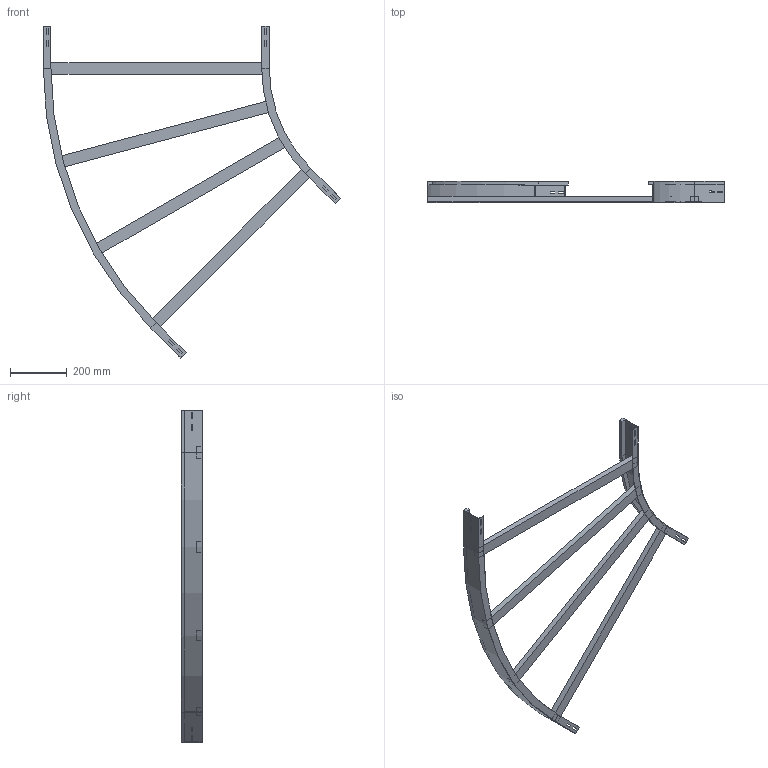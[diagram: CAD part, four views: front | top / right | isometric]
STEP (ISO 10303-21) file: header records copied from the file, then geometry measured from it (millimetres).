
FILE_DESCRIPTION (( 'STEP AP214' ), '1' );
FILE_NAME ('11B5C800.step', '2025-02-21T15:15:42', ( '' ), ( '' ), 'SwSTEP 2.0', 'SolidWorks 2023', '' );
FILE_SCHEMA (( 'AUTOMOTIVE_DESIGN' ));
Length unit declared in the file: millimetre
Products named in the file (4): A2_LONGH.ESTERNO 45°_H75_R500+800; TRAVERSINO_800; 11B5C800; A2_LONGH.INTERNO 45°_H75_R500
Assembly tree (6 placements, depth 2):
  11B5C800
    A2_LONGH.INTERNO 45°_H75_R500
    A2_LONGH.ESTERNO 45°_H75_R500+800
    TRAVERSINO_800  x4
Bounding box: 1052.51 x 75 x 1175.3 mm (x, y, z)
Volume: 3363488.9 mm3; surface area: 865477.1 mm2
Topology: 6 solids, 6 shells, 140 faces, 352 edges, 224 vertices
Faces by surface type: plane 132, cylinder 8
Entity records: 3829 total; most frequent: CARTESIAN_POINT 647, ORIENTED_EDGE 632, DIRECTION 594, EDGE_CURVE 316, VECTOR 300, LINE 300, VERTEX_POINT 200, EDGE_LOOP 154
